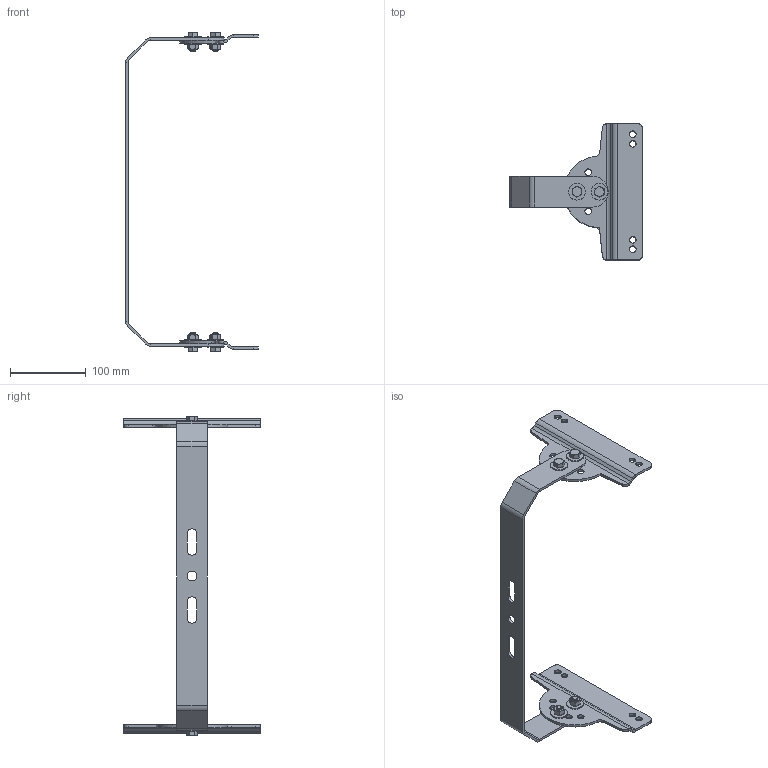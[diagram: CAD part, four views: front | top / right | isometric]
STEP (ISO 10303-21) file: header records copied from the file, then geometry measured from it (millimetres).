
FILE_DESCRIPTION (( 'STEP AP214' ), '1' );
FILE_NAME ('EPL-HB-150LED-RT-SP0129-KT.STEP', '2021-01-15T17:59:28', ( '' ), ( '' ), 'SwSTEP 2.0', 'SolidWorks 2020', '' );
FILE_SCHEMA (( 'AUTOMOTIVE_DESIGN' ));
Length unit declared in the file: inch
Products named in the file (6): hex bolt_ai_HBOLT 0.3125-18x0.75x0.75-N; EPL-HB-150LED-RT Bracket; EPL-HB-150LED-RT Trunnion; flat washer type b regular_ai_Regular FW 0.3125; EPL-HB-150LED-RT-SP0129-KT; hex nut_ai_HNUT 0.3125-18-D-N
Assembly tree (19 placements, depth 2):
  EPL-HB-150LED-RT-SP0129-KT
    EPL-HB-150LED-RT Bracket  x2
    EPL-HB-150LED-RT Trunnion
    flat washer type b regular_ai_Regular FW 0.3125  x8
    hex nut_ai_HNUT 0.3125-18-D-N  x4
    hex bolt_ai_HBOLT 0.3125-18x0.75x0.75-N  x4
Bounding box: 175.77 x 180.34 x 423.32 mm (x, y, z)
Volume: 188086.5 mm3; surface area: 125452.1 mm2
Topology: 19 solids, 19 shells, 386 faces, 872 edges, 528 vertices
Faces by surface type: plane 150, cylinder 140, cone 96
Entity records: 5033 total; most frequent: CARTESIAN_POINT 995, DIRECTION 831, ORIENTED_EDGE 730, EDGE_CURVE 365, AXIS2_PLACEMENT_3D 328, VERTEX_POINT 220, EDGE_LOOP 195, LINE 175
